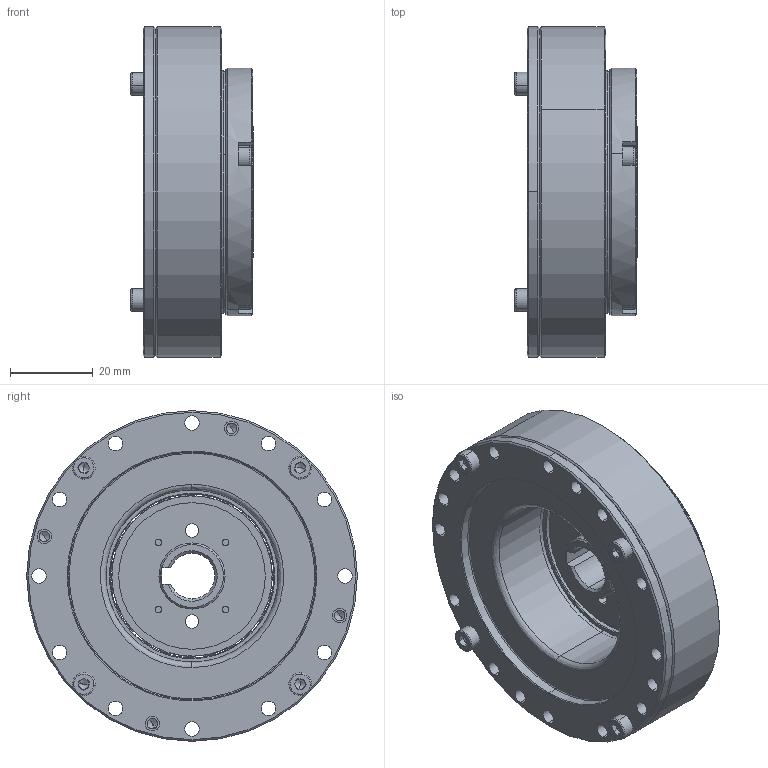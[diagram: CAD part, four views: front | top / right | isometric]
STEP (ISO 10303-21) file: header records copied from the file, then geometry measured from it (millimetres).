
FILE_DESCRIPTION (( 'STEP AP203' ), '1' );
FILE_NAME ('LHSG-17-XXX-C-I-S0.step', '2025-01-07T07:23:44', ( '' ), ( '' ), 'SwSTEP 2.0', 'SolidWorks 2023', '' );
FILE_SCHEMA (( 'CONFIG_CONTROL_DESIGN' ));
Length unit declared in the file: metre
Products named in the file (1): LHSG-17-XXX-C-I-S0
Bounding box: 29.6 x 80 x 80 mm (x, y, z)
Volume: 70832.6 mm3; surface area: 63765.9 mm2
Topology: 45 solids, 45 shells, 1022 faces, 2551 edges, 1514 vertices
Faces by surface type: cylinder 400, plane 310, cone 188, bspline 124
Entity records: 32844 total; most frequent: CARTESIAN_POINT 8794, DIRECTION 5311, ORIENTED_EDGE 4758, EDGE_CURVE 2379, AXIS2_PLACEMENT_3D 2163, VERTEX_POINT 1514, CIRCLE 1264, EDGE_LOOP 1253
